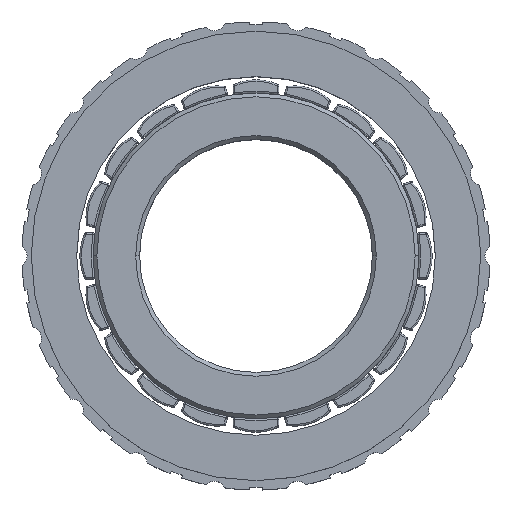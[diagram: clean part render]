
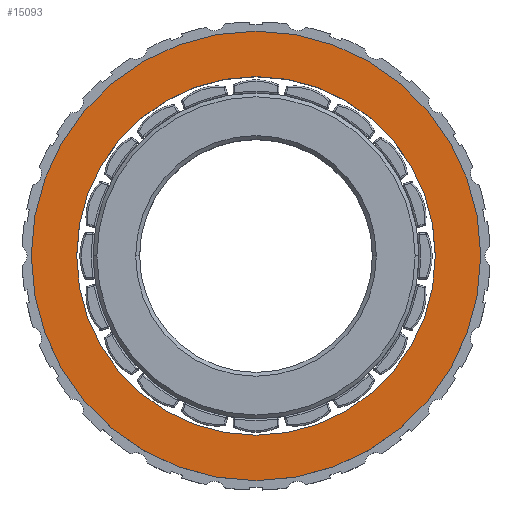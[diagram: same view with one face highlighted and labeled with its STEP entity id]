
A CAD part, top view. The second image highlights one B-rep face of the part: STEP entity #15093.
In plain terms, the highlighted planar face has unit normal (0, 0, 1).
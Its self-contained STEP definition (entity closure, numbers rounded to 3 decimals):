
#24 = DIRECTION ( 'NONE',  ( 1., 0., 0. ) ) ;
#382 = VERTEX_POINT ( 'NONE', #5080 ) ;
#739 = CARTESIAN_POINT ( 'NONE',  ( 28.95, 0., 11.4 ) ) ;
#773 = VERTEX_POINT ( 'NONE', #739 ) ;
#1215 = CIRCLE ( 'NONE', #3489, 23.1 ) ;
#1252 = CARTESIAN_POINT ( 'NONE',  ( 0., 0., 11.4 ) ) ;
#1861 = CARTESIAN_POINT ( 'NONE',  ( 0., 0., 11.4 ) ) ;
#3489 = AXIS2_PLACEMENT_3D ( 'NONE', #12176, #12267, #24 ) ;
#4293 = AXIS2_PLACEMENT_3D ( 'NONE', #1252, #16133, #9406 ) ;
#5080 = CARTESIAN_POINT ( 'NONE',  ( -28.95, 0., 11.4 ) ) ;
#5862 = EDGE_CURVE ( 'NONE', #382, #773, #11812, .T. ) ;
#5880 = ORIENTED_EDGE ( 'NONE', *, *, #5862, .T. ) ;
#7126 = AXIS2_PLACEMENT_3D ( 'NONE', #9006, #13171, #14575 ) ;
#7161 = VERTEX_POINT ( 'NONE', #13733 ) ;
#7276 = EDGE_CURVE ( 'NONE', #773, #382, #9604, .T. ) ;
#8678 = DIRECTION ( 'NONE',  ( 0., 0., 1. ) ) ;
#9006 = CARTESIAN_POINT ( 'NONE',  ( 0., 0., 11.4 ) ) ;
#9091 = FACE_OUTER_BOUND ( 'NONE', #10115, .T. ) ;
#9348 = PLANE ( 'NONE',  #7126 ) ;
#9406 = DIRECTION ( 'NONE',  ( 1., 0., 0. ) ) ;
#9531 = EDGE_CURVE ( 'NONE', #9599, #7161, #1215, .T. ) ;
#9599 = VERTEX_POINT ( 'NONE', #12613 ) ;
#9604 = CIRCLE ( 'NONE', #11317, 28.95 ) ;
#9733 = DIRECTION ( 'NONE',  ( 1., 0., 0. ) ) ;
#9880 = EDGE_LOOP ( 'NONE', ( #11624, #12705 ) ) ;
#10114 = AXIS2_PLACEMENT_3D ( 'NONE', #12481, #16285, #9733 ) ;
#10115 = EDGE_LOOP ( 'NONE', ( #5880, #11657 ) ) ;
#10535 = CIRCLE ( 'NONE', #4293, 23.1 ) ;
#11317 = AXIS2_PLACEMENT_3D ( 'NONE', #1861, #8678, #12847 ) ;
#11624 = ORIENTED_EDGE ( 'NONE', *, *, #9531, .F. ) ;
#11657 = ORIENTED_EDGE ( 'NONE', *, *, #7276, .T. ) ;
#11812 = CIRCLE ( 'NONE', #10114, 28.95 ) ;
#12176 = CARTESIAN_POINT ( 'NONE',  ( 0., 0., 11.4 ) ) ;
#12267 = DIRECTION ( 'NONE',  ( 0., 0., 1. ) ) ;
#12481 = CARTESIAN_POINT ( 'NONE',  ( 0., 0., 11.4 ) ) ;
#12613 = CARTESIAN_POINT ( 'NONE',  ( 23.1, 0., 11.4 ) ) ;
#12705 = ORIENTED_EDGE ( 'NONE', *, *, #14433, .F. ) ;
#12847 = DIRECTION ( 'NONE',  ( 1., 0., 0. ) ) ;
#13171 = DIRECTION ( 'NONE',  ( 0., 0., 1. ) ) ;
#13733 = CARTESIAN_POINT ( 'NONE',  ( -23.1, 0., 11.4 ) ) ;
#14433 = EDGE_CURVE ( 'NONE', #7161, #9599, #10535, .T. ) ;
#14575 = DIRECTION ( 'NONE',  ( 1., 0., 0. ) ) ;
#15093 = ADVANCED_FACE ( 'NONE', ( #9091, #17336 ), #9348, .T. ) ;
#16133 = DIRECTION ( 'NONE',  ( 0., 0., 1. ) ) ;
#16285 = DIRECTION ( 'NONE',  ( 0., 0., 1. ) ) ;
#17336 = FACE_BOUND ( 'NONE', #9880, .T. ) ;
